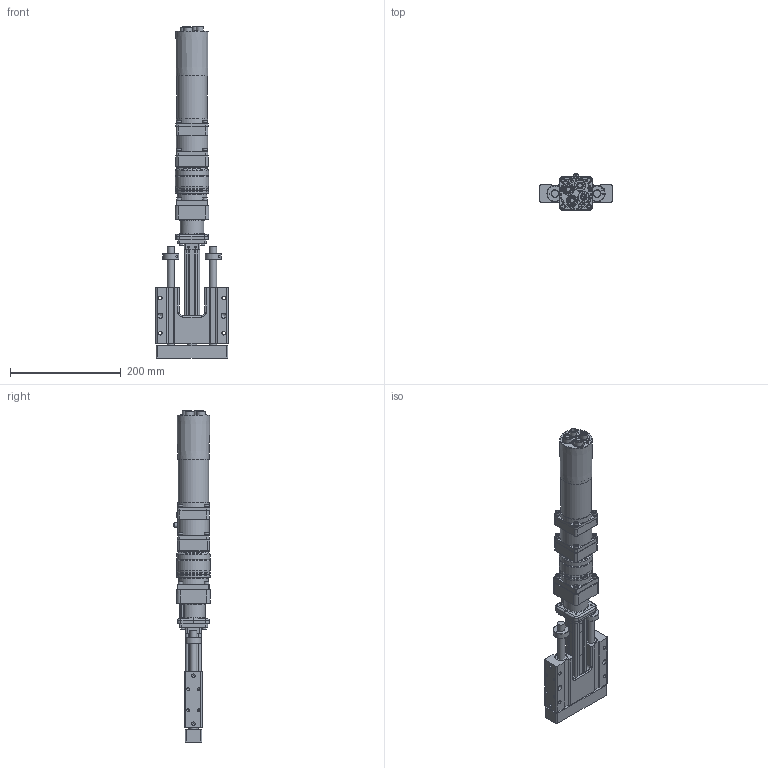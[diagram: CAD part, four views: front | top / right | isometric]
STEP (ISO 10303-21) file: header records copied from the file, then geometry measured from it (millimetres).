
FILE_DESCRIPTION (( 'STEP AP203' ), '1' );
FILE_NAME ('GSA12_SN05_SK2.000_GS-493030-1.step', '2025-07-17T16:14:24', ( '' ), ( '' ), 'SwSTEP 2.0', 'SolidWorks 2024', '' );
FILE_SCHEMA (( 'CONFIG_CONTROL_DESIGN' ));
Length unit declared in the file: inch
Products named in the file (9): tempJoin9_45109053_GSA12_SN05_SK2.000_GS-493030-1; 22129806_GSA12_SN05_SK2.000_GS-493030-1; 23121005_GSA12_SN05_SK2.000_GS-493030-1; tempJoin0_36059500_GSA12_SN05_SK2.000_GS-493030-1; temp3_22121021_GSA12_SN05_SK2.000_GS-493030-1; GSA12_SN05_SK2.000_GS-493030-1; temp2_22121021_GSA12_SN05_SK2.000_GS-493030-1; temp1_22121064_GSA12_SN05_SK2.000_GS-493030-1_DEFAULT WEB; Base_GSA12_SN05_SK2.000_GS-493030-1
Assembly tree (9 placements, depth 2):
  GSA12_SN05_SK2.000_GS-493030-1
    temp1_22121064_GSA12_SN05_SK2.000_GS-493030-1_DEFAULT WEB
    22129806_GSA12_SN05_SK2.000_GS-493030-1
    temp2_22121021_GSA12_SN05_SK2.000_GS-493030-1
    temp3_22121021_GSA12_SN05_SK2.000_GS-493030-1
    23121005_GSA12_SN05_SK2.000_GS-493030-1  x2
    tempJoin0_36059500_GSA12_SN05_SK2.000_GS-493030-1
    tempJoin9_45109053_GSA12_SN05_SK2.000_GS-493030-1
    Base_GSA12_SN05_SK2.000_GS-493030-1
Bounding box: 130.18 x 65.56 x 599.04 mm (x, y, z)
Volume: 1353737.1 mm3; surface area: 291732.9 mm2
Topology: 15 solids, 40 shells, 1414 faces, 3262 edges, 2100 vertices
Faces by surface type: plane 742, cylinder 451, cone 130, torus 53, bspline 38
Full cylindrical faces by diameter (mm): 0.75 x4, 1 x5, 1.587 x2, 2.013 x2, 2.459 x1, 2.5 x1, 2.921 x4, 3.1 x5, 3.3 x8, 3.4 x1, 3.454 x4, 4 x5, 4.134 x4, 4.166 x2, 4.2 x4, 4.201 x4, 4.3 x2, 4.5 x2, 4.572 x3, 4.763 x1, 4.765 x2, 4.801 x2, 4.826 x4, 5 x12, 5.001 x4, 5.105 x10, 5.2 x11, 5.5 x4, 5.6 x1, 6 x1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
Entity records: 41020 total; most frequent: CARTESIAN_POINT 10778, DIRECTION 6166, ORIENTED_EDGE 5354, EDGE_CURVE 2677, AXIS2_PLACEMENT_3D 2415, EDGE_LOOP 1995, VERTEX_POINT 1920, FACE_OUTER_BOUND 1641
